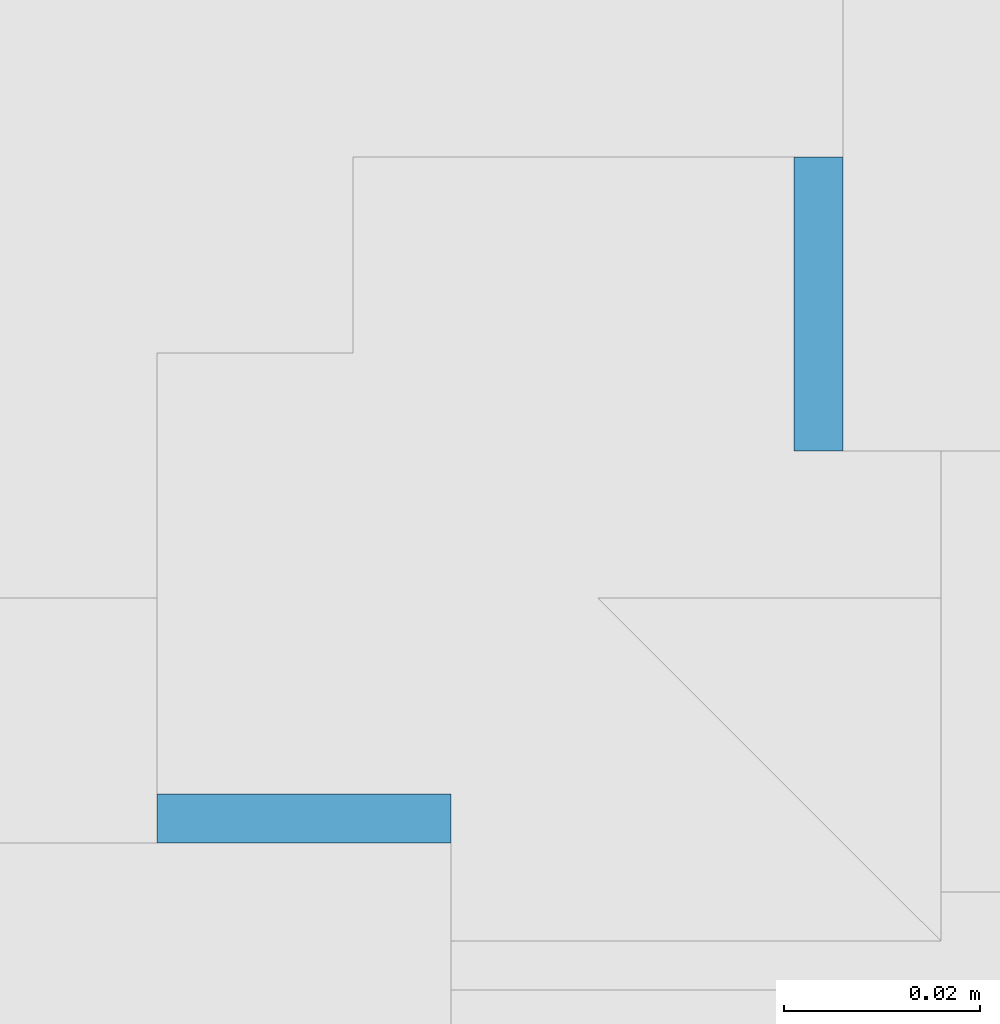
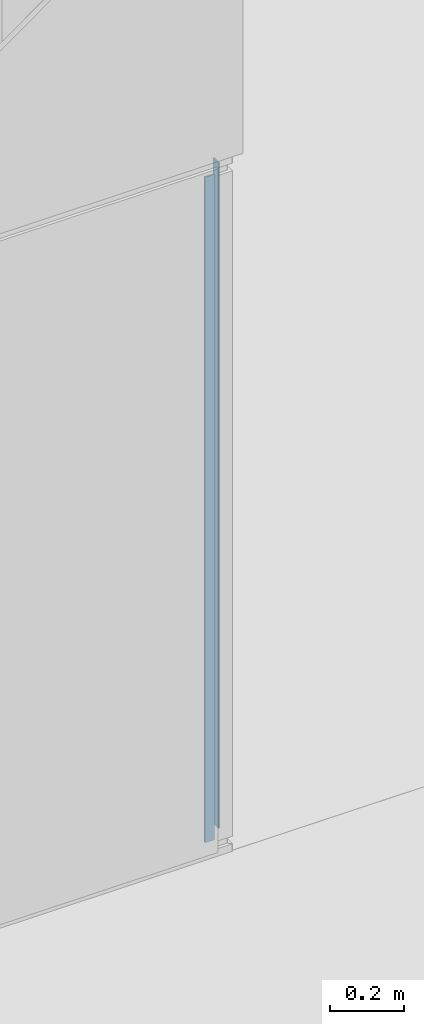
# One storey, part 109 of 139: 1 building element part, 2 elements without a shape of their own.
"""IFC2X3 building model written with IfcOpenShell, lengths in millimetres."""

from ifc_helpers import new_model, entity, si_unit, converted_unit, derived_unit, money_unit, direction, frame, origin_with_axes, place, context, subcontext, project, spatial, faceted_brep, material, type_object, element, aggregate, save


model = new_model("IFC2X3")

# Units and contexts
model_context = context("Model", 3, precision=0.01, world=origin_with_axes(), true_north=direction((0.0, 1.0)))
body_context = subcontext(model_context, "Body", "Model", "MODEL_VIEW")
ifc_project = project(units=[si_unit("LENGTHUNIT", "METRE", prefix="MILLI"), si_unit("AREAUNIT", "SQUARE_METRE"), si_unit("VOLUMEUNIT", "CUBIC_METRE"), converted_unit("PLANEANGLEUNIT", "DEGREE", entity("IfcPlaneAngleMeasure", 0.0174532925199), si_unit("PLANEANGLEUNIT", "RADIAN"), dimensions=[0, 0, 0, 0, 0, 0, 0]), money_unit("EUR"), converted_unit("TIMEUNIT", "Year", entity("IfcTimeMeasure", 31556926.0), si_unit("TIMEUNIT", "SECOND"), dimensions=[0, 0, 1, 0, 0, 0, 0]), si_unit("MASSUNIT", "GRAM", prefix="KILO"), si_unit("THERMODYNAMICTEMPERATUREUNIT", "DEGREE_CELSIUS"), si_unit("LUMINOUSINTENSITYUNIT", "LUMEN"), si_unit("ENERGYUNIT", "JOULE", prefix="MEGA"), derived_unit("THERMALCONDUCTANCEUNIT", [(si_unit("POWERUNIT", "WATT"), 1), (si_unit("LENGTHUNIT", "METRE"), -1), (si_unit("THERMODYNAMICTEMPERATUREUNIT", "KELVIN"), -1)]), derived_unit("SPECIFICHEATCAPACITYUNIT", [(si_unit("ENERGYUNIT", "JOULE"), 1), (si_unit("MASSUNIT", "GRAM", prefix="KILO"), -1), (si_unit("THERMODYNAMICTEMPERATUREUNIT", "KELVIN"), -1)]), derived_unit("MASSDENSITYUNIT", [(si_unit("MASSUNIT", "GRAM", prefix="KILO"), 1), (si_unit("VOLUMEUNIT", "CUBIC_METRE"), -1)])], contexts=[model_context])

# Site, building, storey
site_placement = place(None, origin_with_axes())
site = spatial("IfcSite", under=ifc_project, at=site_placement, Name="Kolde pst 67a", CompositionType="ELEMENT")
building_placement = place(site_placement, origin_with_axes())
building = spatial("IfcBuilding", under=site, at=building_placement, Name="Riigigümnaasium", CompositionType="ELEMENT")
storey_placement = place(building_placement, frame((0.0, 0.0, 4600.0), z_axis=(0.0, 0.0, 1.0), x_axis=(1.0, 0.0, 0.0)))
storey = spatial("IfcBuildingStorey", under=building, at=storey_placement, Name="2. korrus", CompositionType="ELEMENT", Elevation=4600.0)

# Curtain wall, member, building element part
curtain_wall_type = type_object("IfcCurtainWallType", Name="Curtain Wall Type", PredefinedType="NOTDEFINED")
curtain_wall_placement = place(storey_placement, frame((71469.9681221, 10694.9619432, -0.000132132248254), z_axis=(0.0, 0.0, 1.0), x_axis=(1.0, 0.0, 0.0)))
curtain_wall = element("IfcCurtainWall", 1, at=curtain_wall_placement, inside=storey, type_object=curtain_wall_type, Name="KLAASSEIN")
member_type = type_object("IfcMemberType", Name="Corner Frame 80 x 60", PredefinedType="MEMBER")
member_placement = place(curtain_wall_placement, frame((2279.75189028, 3.82592446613e-06, 0.0), z_axis=(0.0, 0.0, 1.0), x_axis=(-0.707106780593, -0.70710678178, 0.0)))
member = element("IfcMember", 2, at=member_placement, type_object=member_type, Name="RF RAAM NURK-066", ObjectType="MEMBER")
aggregate(curtain_wall, [member])
ifc_material = material(Name="Machine_Green")
building_element_part_placement = place(member_placement, origin_with_axes())
building_element_part = element("IfcBuildingElementPart", 3, at=building_element_part_placement, material=ifc_material, Name="Machine_Green", context=body_context, shape_type="Brep", body=[
    faceted_brep([(45.9619408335, -67.1751441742, 50.0), (45.9619408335, -67.1751441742, 2250.00018238), (24.7487373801, -45.9619407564, 2250.00018238), (24.7487373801, -45.9619407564, 50.0), (49.4974747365, -63.6396102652, 50.0), (49.4974747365, -63.6396102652, 2250.00018238), (28.2842712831, -42.4264068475, 2250.00018238), (28.2842712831, -42.4264068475, 50.0)], [[[0, 1, 2, 3]], [[4, 5, 1, 0]], [[2, 1, 5, 6]], [[3, 2, 6, 7]], [[3, 7, 4, 0]], [[7, 6, 5, 4]]]),
    faceted_brep([(-28.2842712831, -42.4264068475, 50.0), (-28.2842712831, -42.4264068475, 2250.00018238), (-24.7487373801, -45.9619407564, 2250.00018238), (-24.7487373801, -45.9619407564, 50.0), (-49.4974747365, -63.6396102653, 50.0), (-49.4974747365, -63.6396102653, 2250.00018238), (-45.9619408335, -67.1751441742, 2250.00018238), (-45.9619408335, -67.1751441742, 50.0)], [[[0, 1, 2, 3]], [[4, 5, 1, 0]], [[2, 1, 5, 6]], [[3, 2, 6, 7]], [[3, 7, 4, 0]], [[7, 6, 5, 4]]]),
])
aggregate(member, [building_element_part])

save(model, "model.ifc")
